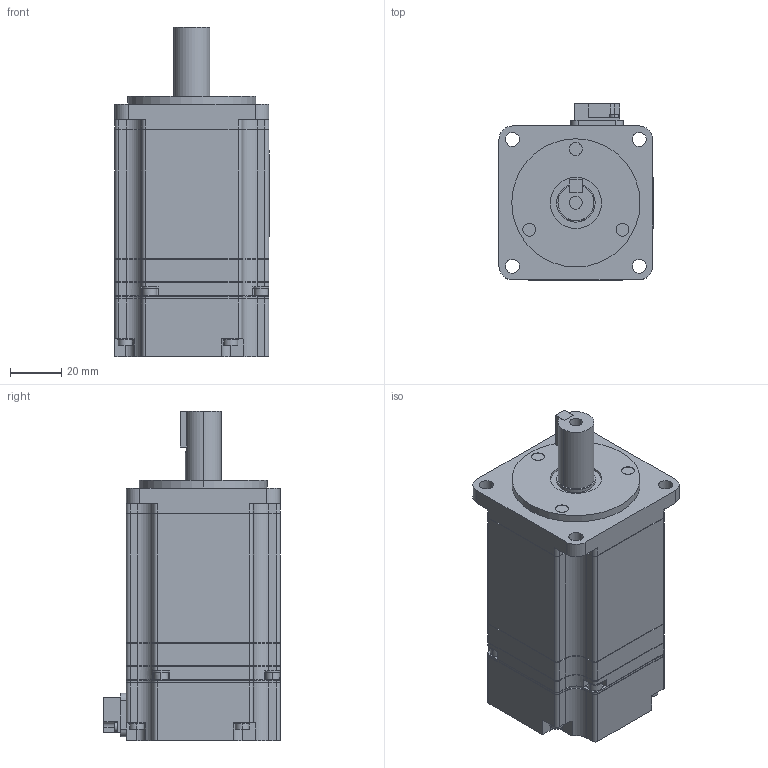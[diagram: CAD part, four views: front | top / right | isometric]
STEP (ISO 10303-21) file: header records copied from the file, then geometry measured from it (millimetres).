
FILE_DESCRIPTION (( 'STEP AP203' ), '1' );
FILE_NAME ('sgmav_04a_a61.STEP', '2008-06-10T12:00:57', ( 'T' ), ( 'T' ), 'SwSTEP 2.0', 'SolidWorks 2006052', '' );
FILE_SCHEMA (( 'CONFIG_CONTROL_DESIGN' ));
Length unit declared in the file: millimetre
Products named in the file (3): sgmav_04a_a61_key; sgmav_04a_a61; sgmav_04a_a61_base
Assembly tree (2 placements, depth 2):
  sgmav_04a_a61
    sgmav_04a_a61_base
    sgmav_04a_a61_key
Bounding box: 60.1 x 68.8 x 128.6 mm (x, y, z)
Volume: 324858.8 mm3; surface area: 35818.2 mm2
Topology: 2 solids, 2 shells, 495 faces, 1337 edges, 882 vertices
Faces by surface type: plane 275, cylinder 220
Entity records: 16005 total; most frequent: DIRECTION 2800, CARTESIAN_POINT 2761, ORIENTED_EDGE 2674, EDGE_CURVE 1337, AXIS2_PLACEMENT_3D 967, VERTEX_POINT 882, VECTOR 866, LINE 866
